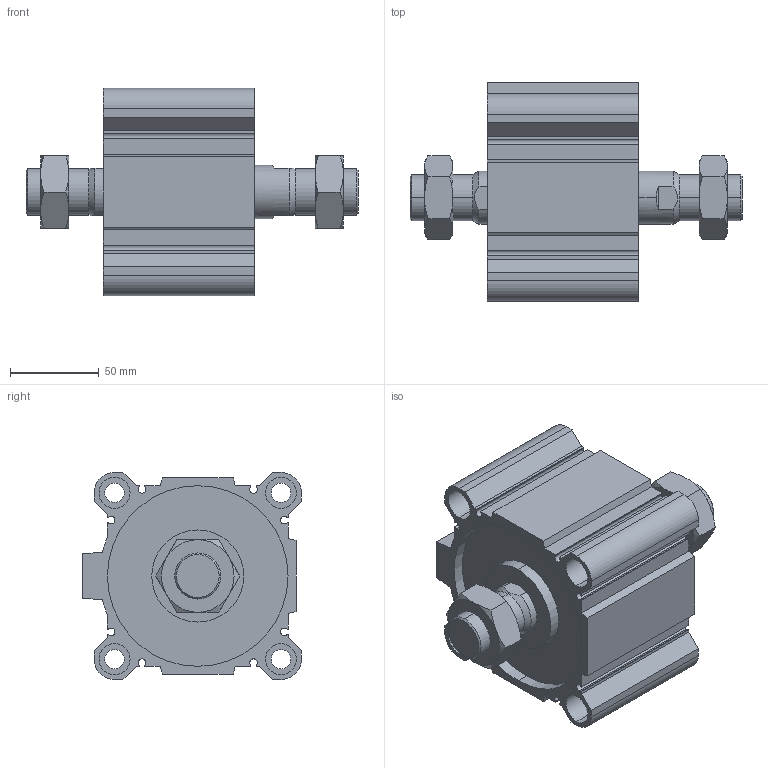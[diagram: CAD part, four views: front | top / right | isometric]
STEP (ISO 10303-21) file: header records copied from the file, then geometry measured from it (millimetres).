
FILE_DESCRIPTION (( 'STEP AP203' ), '1' );
FILE_NAME ('CCMB100-15M-P.STEP', '2020-08-10T11:57:42', ( '' ), ( '' ), 'SwSTEP 2.0', 'SolidWorks 2019', '' );
FILE_SCHEMA (( 'CONFIG_CONTROL_DESIGN' ));
Length unit declared in the file: millimetre
Products named in the file (1): CCMB100-15M-P
Bounding box: 187.5 x 123.5 x 117 mm (x, y, z)
Volume: 886356.6 mm3; surface area: 183399.8 mm2
Topology: 4 solids, 4 shells, 230 faces, 568 edges, 364 vertices
Faces by surface type: plane 106, cylinder 80, cone 44
Entity records: 7879 total; most frequent: CARTESIAN_POINT 2279, DIRECTION 1166, ORIENTED_EDGE 1136, EDGE_CURVE 568, AXIS2_PLACEMENT_3D 431, VERTEX_POINT 364, LINE 304, VECTOR 304
